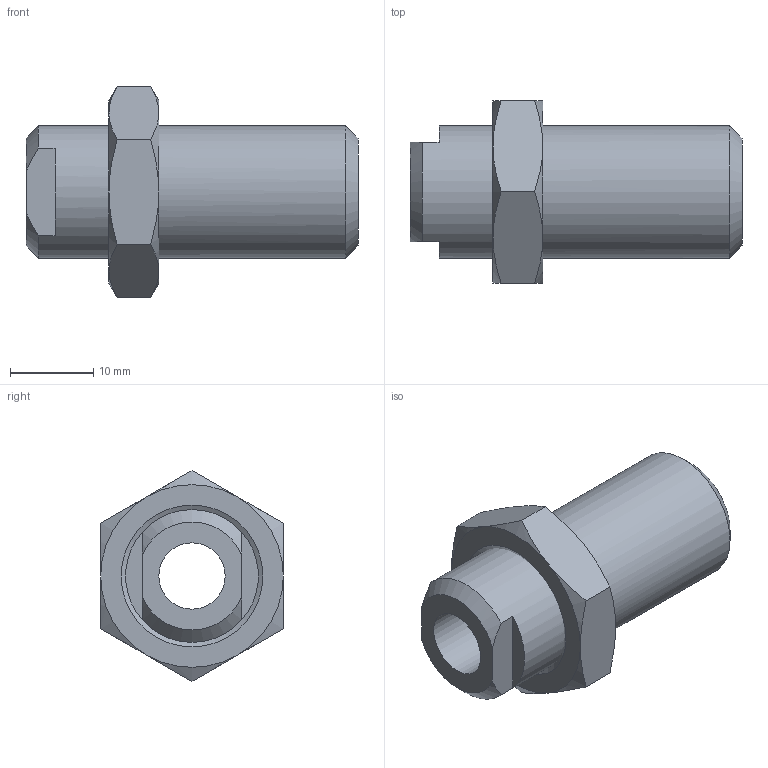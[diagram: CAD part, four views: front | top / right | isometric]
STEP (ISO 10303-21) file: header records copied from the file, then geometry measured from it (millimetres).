
FILE_DESCRIPTION(/* description */ ('GRANO'),/* implementation_level */ '2;1');
FILE_NAME(/* name */ 'C:\Local Work Area\Progetti\AP\CALIBRI\03 Portacomparatore\03.22.stp',/* time_stamp */ '2015-04-01T09:11:17+02:00',/* author */ ('CAD5'),/* organization */ (''),/* preprocessor_version */ 'ST-DEVELOPER v15.2',/* originating_system */ 'Autodesk Inventor 2014',/* authorisation */ '');
FILE_SCHEMA (('AUTOMOTIVE_DESIGN { 1 0 10303 214 3 1 1 }'));
Length unit declared in the file: millimetre
Products named in the file (3): 03.06-B; 03.26; 03.22
Bounding box: 40 x 22 x 25.4 mm (x, y, z)
Volume: 7255.9 mm3; surface area: 4379.1 mm2
Topology: 2 solids, 2 shells, 34 faces, 77 edges, 47 vertices
Faces by surface type: cone 17, plane 14, cylinder 3
Full cylindrical faces by diameter (mm): 8 x1, 14.917 x1, 16 x1
Entity records: 931 total; most frequent: CARTESIAN_POINT 207, DIRECTION 144, ORIENTED_EDGE 136, EDGE_CURVE 68, AXIS2_PLACEMENT_3D 65, EDGE_LOOP 44, VERTEX_POINT 44, ADVANCED_FACE 34
